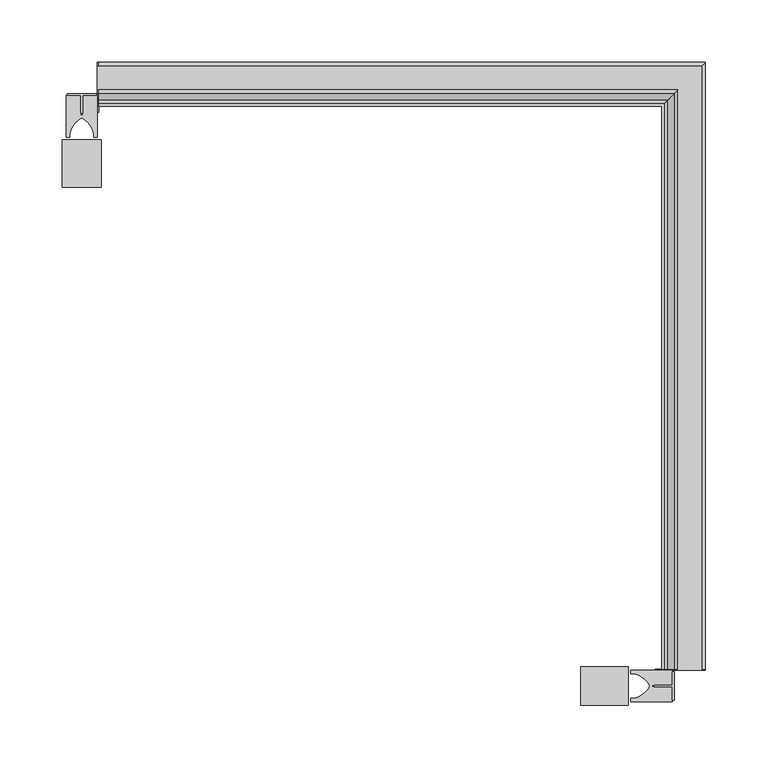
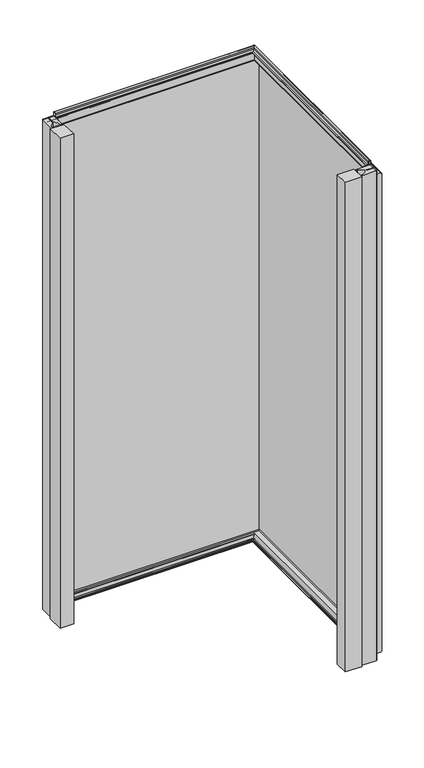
"""IFC4 building model written with IfcOpenShell, lengths in millimetres: plate geometry, Угловой модуль Fronttop : Угловой модуль Fronttop 100/1190."""

from ifc_helpers import new_model, si_unit, point, frame, frame_2d, origin, origin_with_axes, place, context, project, spatial, polyline, circle_curve, ellipse_curve, trimmed, segment, composite_curve, outline, extrude, source, transform, mapped, element, save
from ifc_brep_helpers import plane_surface, cylinder_surface, revolved_surface, advanced_brep


def plate_c792359b(model_context):
    return source(origin(), model_context, "Body", "SolidModel", [
        extrude(outline(polyline([(225.0, -388.4948846), (225.0, -411.5051154), (223.5, -411.5051154), (223.5, -400.6502496), (209.0759655, -400.6502496), (209.0759655, -399.35), (223.5, -399.35), (223.5, -388.4948846), (225.0, -388.4948846)])), origin_with_axes(), (0.0, 0.0, 1.0), 1190.0),
        extrude(outline(composite_curve([segment(polyline([(223.5, -387.4998455), (223.5, -399.25), (207.5, -399.25), (207.5, -400.75), (223.5, -400.75), (223.5, -412.5001545), (190.0, -412.5001545), (190.0, -409.75), (192.5, -409.75)]), True, "CONTINUOUS"), segment(trimmed(circle_curve(frame_2d((189.3183984, -391.9661979)), 18.0661619), [point((192.5, -409.75))], [point((205.5, -400.0))], True, "CARTESIAN"), True, "CONTINUOUS"), segment(trimmed(circle_curve(frame_2d((189.3183984, -408.0338021)), 18.0661619), [point((205.5, -400.0))], [point((192.5, -390.25))], True, "CARTESIAN"), True, "CONTINUOUS"), segment(polyline([(192.5, -390.25), (190.0, -390.25), (190.0, -387.4998455), (223.5, -387.4998455)]), True, "CONTINUOUS")], self_intersect=False)), origin_with_axes(), (0.0, 0.0, 1.0), 1190.0),
        extrude(outline(polyline([(150.0, -415.5), (150.0, -384.5), (188.0, -384.5), (188.0, -415.5), (150.0, -415.5)])), origin_with_axes(), (0.0, 0.0, 1.0), 1190.0),
        extrude(outline(polyline([(-261.5051154, 75.0), (-238.4948846, 75.0), (-238.4948846, 73.5), (-249.3497504, 73.5), (-249.3497504, 59.0759655), (-250.65, 59.0759655), (-250.65, 73.5), (-261.5051154, 73.5), (-261.5051154, 75.0)])), origin_with_axes(), (0.0, 0.0, 1.0), 1190.0),
        extrude(outline(composite_curve([segment(polyline([(-262.5001545, 73.5), (-250.75, 73.5), (-250.75, 57.5), (-249.25, 57.5), (-249.25, 73.5), (-237.4998455, 73.5), (-237.4998455, 40.0), (-240.25, 40.0), (-240.25, 42.5)]), True, "CONTINUOUS"), segment(trimmed(circle_curve(frame_2d((-258.0338021, 39.3183984)), 18.0661619), [point((-240.25, 42.5))], [point((-250.0, 55.5))], True, "CARTESIAN"), True, "CONTINUOUS"), segment(trimmed(circle_curve(frame_2d((-241.9661979, 39.3183984)), 18.0661619), [point((-250.0, 55.5))], [point((-259.75, 42.5))], True, "CARTESIAN"), True, "CONTINUOUS"), segment(polyline([(-259.75, 42.5), (-259.75, 40.0), (-262.5001545, 40.0), (-262.5001545, 73.5)]), True, "CONTINUOUS")], self_intersect=False)), origin_with_axes(), (0.0, 0.0, 1.0), 1190.0),
        extrude(outline(polyline([(-234.5, 0.0), (-265.5, 0.0), (-265.5, 38.0), (-234.5, 38.0), (-234.5, 0.0)])), origin_with_axes(), (0.0, 0.0, 1.0), 1190.0),
        advanced_brep(
        [(-236.5, 74.0, 1198.0), (-236.5, 71.0, 1198.0), (-236.5, 71.0, 1194.0), (-236.5, 67.0, 1190.0), (-236.5, 65.0, 1190.0), (-236.5, 65.0, 1191.0), (-236.5, 67.0, 1191.0), (-236.5, 70.0, 1194.0), (-236.5, 70.0, 1198.0), (-236.5, 75.0, 1198.0), (-236.5, 75.0, 1190.0), (-236.5, 74.0, 1190.0), (-236.5, 65.0, 2.0), (215.0, 65.0, 2.0), (215.0, 65.0, 3.0), (-236.5, 65.0, 3.0), (215.0, -386.5, 3.0), (217.0, -386.5, 3.0), (217.0, 67.0, 3.0), (-236.5, 67.0, 3.0), (218.0, 68.0, 4.0), (-236.5, 68.0, 4.0), (218.0, 68.0, 8.0), (-236.5, 68.0, 8.0), (227.0, 77.0, 8.0), (-236.5, 77.0, 8.0), (227.0, 77.0, 0.0), (-236.5, 77.0, 0.0), (229.0, 79.0, -2.0), (-236.5, 79.0, -2.0), (229.0, -386.5, -2.0), (247.0, -386.5, -2.0), (247.0, 97.0, -2.0), (-236.5, 97.0, -2.0), (249.0, 99.0, 0.0), (-236.5, 99.0, 0.0), (249.0, 99.0, 1159.0), (-236.5, 99.0, 1159.0), (247.0, 97.0, 1161.0), (-236.5, 97.0, 1161.0), (247.0, -386.5, 1161.0), (228.0, -386.5, 1161.0), (228.0, 78.0, 1161.0), (-236.5, 78.0, 1161.0), (224.0, 74.0, 1165.0), (-236.5, 74.0, 1165.0), (224.0, 74.0, 1198.0), (221.0, 71.0, 1198.0), (221.0, 71.0, 1194.0), (217.0, 67.0, 1190.0), (217.0, -386.5, 1190.0), (215.0, -386.5, 1190.0), (215.0, 65.0, 1190.0), (215.0, 65.0, 1191.0), (215.0, -386.5, 1191.0), (217.0, -386.5, 1191.0), (217.0, 67.0, 1191.0), (220.0, 70.0, 1194.0), (220.0, 70.0, 1198.0), (225.0, 75.0, 1198.0), (225.0, 75.0, 1165.0), (-236.5, 75.0, 1165.0), (-237.5, 75.0, 1165.0), (-237.5, 75.0, 1190.0), (228.0, 78.0, 1162.0), (-236.5, 78.0, 1162.0), (228.0, -386.5, 1162.0), (228.0, -387.5, 1162.0), (247.0, -387.5, 1162.0), (247.0, -386.5, 1162.0), (247.0, 97.0, 1162.0), (-236.5, 97.0, 1162.0), (-237.5, 97.0, 1162.0), (-237.5, 78.0, 1162.0), (250.0, 100.0, 1159.0), (-236.5, 100.0, 1159.0), (250.0, 100.0, 0.0), (-236.5, 100.0, 0.0), (-237.5, 100.0, 0.0), (-237.5, 100.0, 1159.0), (247.0, 97.0, -3.0), (-236.5, 97.0, -3.0), (247.0, -386.5, -3.0), (247.0, -387.5, -3.0), (225.0, -387.5, -3.0), (225.0, -386.5, -3.0), (229.0, -386.5, -3.0), (229.0, 79.0, -3.0), (-236.5, 79.0, -3.0), (-236.5, 75.0, -3.0), (-237.5, 75.0, -3.0), (-237.5, 97.0, -3.0), (226.0, 76.0, 0.0), (-236.5, 76.0, 0.0), (226.0, 76.0, 8.0), (-236.5, 76.0, 8.0), (219.0, 69.0, 8.0), (-236.5, 69.0, 8.0), (219.0, 69.0, 4.0), (-236.5, 69.0, 4.0), (217.0, 67.0, 2.0), (-236.5, 67.0, 2.0), (217.0, -386.5, 2.0), (215.0, -386.5, 2.0), (221.0, -386.5, 1194.0), (221.0, -386.5, 1198.0), (224.0, -386.5, 1198.0), (224.0, -386.5, 1190.0), (225.0, -386.5, 1190.0), (225.0, -386.5, 1198.0), (220.0, -386.5, 1198.0), (220.0, -386.5, 1194.0), (218.0, -386.5, 4.0), (218.0, -386.5, 8.0), (227.0, -386.5, 8.0), (227.0, -386.5, 0.0), (249.0, -386.5, 0.0), (249.0, -386.5, 1159.0), (224.0, -386.5, 1165.0), (225.0, -387.5, 1190.0), (225.0, -387.5, 1165.0), (225.0, -386.5, 1165.0), (250.0, -386.5, 1159.0), (250.0, -387.5, 1159.0), (250.0, -387.5, 0.0), (250.0, -386.5, 0.0), (226.0, -386.5, 0.0), (226.0, -386.5, 8.0), (219.0, -386.5, 8.0), (219.0, -386.5, 4.0), (-236.5, 60.0, 1190.0), (-236.5, 60.0, 0.0), (-236.5, 75.0, 0.0), (-237.5, 75.0, 0.0), (-237.5, 60.0, 0.0), (-237.5, 60.0, 1190.0), (210.0, -386.5, 0.0), (210.0, -386.5, 1190.0), (225.0, -386.5, 0.0), (210.0, -387.5, 0.0), (225.0, -387.5, 0.0), (210.0, -387.5, 1190.0)],
        [
            (0, 1, circle_curve(frame((-236.5, 72.5, 1198.0), z_axis=(1.0, 0.0, 0.0), x_axis=(0.0, -1.0, 0.0)), 1.5)),
            (1, 2),
            (2, 3, circle_curve(frame((-236.5, 67.0, 1194.0), z_axis=(-1.0, 0.0, 0.0), x_axis=(0.0, -1.0, 0.0)), 4.0)),
            (3, 4),
            (4, 5),
            (5, 6),
            (6, 7, circle_curve(frame((-236.5, 67.0, 1194.0), z_axis=(1.0, 0.0, 0.0), x_axis=(0.0, -1.0, 0.0)), 3.0)),
            (7, 8),
            (8, 9, circle_curve(frame((-236.5, 72.5, 1198.0), z_axis=(-1.0, 0.0, 0.0), x_axis=(0.0, -1.0, 0.0)), 2.5)),
            (9, 10),
            (10, 11),
            (11, 0),
            (12, 13),
            (13, 14),
            (14, 15),
            (15, 12),
            (14, 16),
            (16, 17),
            (17, 18),
            (18, 19),
            (19, 15),
            (18, 20, ellipse_curve(frame((217.0, 67.0, 4.0), z_axis=(0.7071067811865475, -0.7071067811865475, 0.0), x_axis=(0.7071067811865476, 0.7071067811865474, 0.0)), 1.4142136, 1.0)),
            (20, 21),
            (21, 19, circle_curve(frame((-236.5, 67.0, 4.0), z_axis=(-1.0, 0.0, 0.0), x_axis=(0.0, -1.0, 0.0)), 1.0)),
            (20, 22),
            (22, 23),
            (23, 21),
            (22, 24, ellipse_curve(frame((222.5, 72.5, 8.0), z_axis=(-0.7071067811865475, 0.7071067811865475, 0.0), x_axis=(-0.7071067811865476, -0.7071067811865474, 0.0)), 6.363961, 4.5)),
            (24, 25),
            (25, 23, circle_curve(frame((-236.5, 72.5, 8.0), z_axis=(1.0, 0.0, 0.0), x_axis=(0.0, -1.0, 0.0)), 4.5)),
            (24, 26),
            (26, 27),
            (27, 25),
            (26, 28, ellipse_curve(frame((229.0, 79.0, 0.0), z_axis=(0.7071067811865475, -0.7071067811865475, 0.0), x_axis=(0.7071067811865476, 0.7071067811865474, 0.0)), 2.8284271, 2.0)),
            (28, 29),
            (29, 27, circle_curve(frame((-236.5, 79.0, 0.0), z_axis=(-1.0, 0.0, 0.0), x_axis=(0.0, -1.0, 0.0)), 2.0)),
            (28, 30),
            (30, 31),
            (31, 32),
            (32, 33),
            (33, 29),
            (32, 34, ellipse_curve(frame((247.0, 97.0, 0.0), z_axis=(0.7071067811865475, -0.7071067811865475, 0.0), x_axis=(0.7071067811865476, 0.7071067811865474, 0.0)), 2.8284271, 2.0)),
            (34, 35),
            (35, 33, circle_curve(frame((-236.5, 97.0, 0.0), z_axis=(-1.0, 0.0, 0.0), x_axis=(0.0, -1.0, 0.0)), 2.0)),
            (34, 36),
            (36, 37),
            (37, 35),
            (36, 38, ellipse_curve(frame((247.0, 97.0, 1159.0), z_axis=(0.7071067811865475, -0.7071067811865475, 0.0), x_axis=(0.7071067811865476, 0.7071067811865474, 0.0)), 2.8284271, 2.0)),
            (38, 39),
            (39, 37, circle_curve(frame((-236.5, 97.0, 1159.0), z_axis=(-1.0, 0.0, 0.0), x_axis=(0.0, -1.0, 0.0)), 2.0)),
            (38, 40),
            (40, 41),
            (41, 42),
            (42, 43),
            (43, 39),
            (42, 44, ellipse_curve(frame((228.0, 78.0, 1165.0), z_axis=(-0.7071067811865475, 0.7071067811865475, 0.0), x_axis=(-0.7071067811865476, -0.7071067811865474, 0.0)), 5.6568542, 4.0)),
            (44, 45),
            (45, 43, circle_curve(frame((-236.5, 78.0, 1165.0), z_axis=(1.0, 0.0, 0.0), x_axis=(0.0, -1.0, 0.0)), 4.0)),
            (44, 46),
            (46, 0),
            (11, 45),
            (46, 47, ellipse_curve(frame((222.5, 72.5, 1198.0), z_axis=(0.7071067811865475, -0.7071067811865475, 0.0), x_axis=(0.7071067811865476, 0.7071067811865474, 0.0)), 2.1213203, 1.5)),
            (47, 1),
            (47, 48),
            (48, 2),
            (48, 49, ellipse_curve(frame((217.0, 67.0, 1194.0), z_axis=(-0.7071067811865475, 0.7071067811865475, 0.0), x_axis=(-0.7071067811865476, -0.7071067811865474, 0.0)), 5.6568542, 4.0)),
            (49, 3),
            (49, 50),
            (50, 51),
            (51, 52),
            (52, 4),
            (4, 3),
            (52, 53),
            (53, 5),
            (53, 54),
            (54, 55),
            (55, 56),
            (56, 6),
            (56, 57, ellipse_curve(frame((217.0, 67.0, 1194.0), z_axis=(0.7071067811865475, -0.7071067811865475, 0.0), x_axis=(0.7071067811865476, 0.7071067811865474, 0.0)), 4.2426407, 3.0)),
            (57, 7),
            (57, 58),
            (58, 8),
            (58, 59, ellipse_curve(frame((222.5, 72.5, 1198.0), z_axis=(-0.7071067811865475, 0.7071067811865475, 0.0), x_axis=(-0.7071067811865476, -0.7071067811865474, 0.0)), 3.5355339, 2.5)),
            (59, 9),
            (59, 60),
            (60, 61),
            (61, 62),
            (62, 63),
            (63, 10),
            (60, 64, ellipse_curve(frame((228.0, 78.0, 1165.0), z_axis=(0.7071067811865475, -0.7071067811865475, 0.0), x_axis=(0.7071067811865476, 0.7071067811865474, 0.0)), 4.2426407, 3.0)),
            (64, 65),
            (65, 61, circle_curve(frame((-236.5, 78.0, 1165.0), z_axis=(-1.0, 0.0, 0.0), x_axis=(0.0, -1.0, 0.0)), 3.0)),
            (64, 66),
            (66, 67),
            (67, 68),
            (68, 69),
            (69, 70),
            (70, 71),
            (71, 72),
            (72, 73),
            (73, 65),
            (70, 74, ellipse_curve(frame((247.0, 97.0, 1159.0), z_axis=(-0.7071067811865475, 0.7071067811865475, 0.0), x_axis=(-0.7071067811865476, -0.7071067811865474, 0.0)), 4.2426407, 3.0)),
            (74, 75),
            (75, 71, circle_curve(frame((-236.5, 97.0, 1159.0), z_axis=(1.0, 0.0, 0.0), x_axis=(0.0, -1.0, 0.0)), 3.0)),
            (74, 76),
            (76, 77),
            (77, 78),
            (78, 79),
            (79, 75),
            (76, 80, ellipse_curve(frame((247.0, 97.0, 0.0), z_axis=(-0.7071067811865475, 0.7071067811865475, 0.0), x_axis=(-0.7071067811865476, -0.7071067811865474, 0.0)), 4.2426407, 3.0)),
            (80, 81),
            (81, 77, circle_curve(frame((-236.5, 97.0, 0.0), z_axis=(1.0, 0.0, 0.0), x_axis=(0.0, -1.0, 0.0)), 3.0)),
            (80, 82),
            (82, 83),
            (83, 84),
            (84, 85),
            (85, 86),
            (86, 87),
            (87, 88),
            (88, 89),
            (89, 90),
            (90, 91),
            (91, 81),
            (87, 92, ellipse_curve(frame((229.0, 79.0, 0.0), z_axis=(-0.7071067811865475, 0.7071067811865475, 0.0), x_axis=(-0.7071067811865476, -0.7071067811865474, 0.0)), 4.2426407, 3.0)),
            (92, 93),
            (93, 88, circle_curve(frame((-236.5, 79.0, 0.0), z_axis=(1.0, 0.0, 0.0), x_axis=(0.0, -1.0, 0.0)), 3.0)),
            (92, 94),
            (94, 95),
            (95, 93),
            (94, 96, ellipse_curve(frame((222.5, 72.5, 8.0), z_axis=(0.7071067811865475, -0.7071067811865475, 0.0), x_axis=(0.7071067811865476, 0.7071067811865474, 0.0)), 4.9497475, 3.5)),
            (96, 97),
            (97, 95, circle_curve(frame((-236.5, 72.5, 8.0), z_axis=(-1.0, 0.0, 0.0), x_axis=(0.0, -1.0, 0.0)), 3.5)),
            (96, 98),
            (98, 99),
            (99, 97),
            (98, 100, ellipse_curve(frame((217.0, 67.0, 4.0), z_axis=(-0.7071067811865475, 0.7071067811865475, 0.0), x_axis=(-0.7071067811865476, -0.7071067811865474, 0.0)), 2.8284271, 2.0)),
            (100, 101),
            (101, 99, circle_curve(frame((-236.5, 67.0, 4.0), z_axis=(1.0, 0.0, 0.0), x_axis=(0.0, -1.0, 0.0)), 2.0)),
            (12, 101),
            (100, 102),
            (102, 103),
            (103, 13),
            (54, 51),
            (51, 50),
            (50, 104, circle_curve(frame((217.0, -386.5, 1194.0), z_axis=(0.0, -1.0, 0.0), x_axis=(-1.0, 0.0, 0.0)), 4.0)),
            (104, 105),
            (105, 106, circle_curve(frame((222.5, -386.5, 1198.0), z_axis=(0.0, 1.0, 0.0), x_axis=(-1.0, 0.0, 0.0)), 1.5)),
            (106, 107),
            (107, 108),
            (108, 109),
            (109, 110, circle_curve(frame((222.5, -386.5, 1198.0), z_axis=(0.0, -1.0, 0.0), x_axis=(-1.0, 0.0, 0.0)), 2.5)),
            (110, 111),
            (111, 55, circle_curve(frame((217.0, -386.5, 1194.0), z_axis=(0.0, 1.0, 0.0), x_axis=(-1.0, 0.0, 0.0)), 3.0)),
            (103, 16),
            (17, 112, circle_curve(frame((217.0, -386.5, 4.0), z_axis=(0.0, -1.0, 0.0), x_axis=(-1.0, 0.0, 0.0)), 1.0)),
            (112, 20),
            (112, 113),
            (113, 22),
            (113, 114, circle_curve(frame((222.5, -386.5, 8.0), z_axis=(0.0, 1.0, 0.0), x_axis=(-1.0, 0.0, 0.0)), 4.5)),
            (114, 24),
            (114, 115),
            (115, 26),
            (115, 30, circle_curve(frame((229.0, -386.5, 0.0), z_axis=(0.0, -1.0, 0.0), x_axis=(-1.0, 0.0, 0.0)), 2.0)),
            (31, 116, circle_curve(frame((247.0, -386.5, 0.0), z_axis=(0.0, -1.0, 0.0), x_axis=(-1.0, 0.0, 0.0)), 2.0)),
            (116, 34),
            (116, 117),
            (117, 36),
            (117, 40, circle_curve(frame((247.0, -386.5, 1159.0), z_axis=(0.0, -1.0, 0.0), x_axis=(-1.0, 0.0, 0.0)), 2.0)),
            (41, 118, circle_curve(frame((228.0, -386.5, 1165.0), z_axis=(0.0, 1.0, 0.0), x_axis=(-1.0, 0.0, 0.0)), 4.0)),
            (118, 44),
            (118, 107),
            (106, 46),
            (105, 47),
            (104, 48),
            (111, 57),
            (110, 58),
            (109, 59),
            (108, 119),
            (119, 120),
            (120, 121),
            (121, 60),
            (121, 66, circle_curve(frame((228.0, -386.5, 1165.0), z_axis=(0.0, -1.0, 0.0), x_axis=(-1.0, 0.0, 0.0)), 3.0)),
            (69, 122, circle_curve(frame((247.0, -386.5, 1159.0), z_axis=(0.0, 1.0, 0.0), x_axis=(-1.0, 0.0, 0.0)), 3.0)),
            (122, 74),
            (122, 123),
            (123, 124),
            (124, 125),
            (125, 76),
            (125, 82, circle_curve(frame((247.0, -386.5, 0.0), z_axis=(0.0, 1.0, 0.0), x_axis=(-1.0, 0.0, 0.0)), 3.0)),
            (86, 126, circle_curve(frame((229.0, -386.5, 0.0), z_axis=(0.0, 1.0, 0.0), x_axis=(-1.0, 0.0, 0.0)), 3.0)),
            (126, 92),
            (126, 127),
            (127, 94),
            (127, 128, circle_curve(frame((222.5, -386.5, 8.0), z_axis=(0.0, -1.0, 0.0), x_axis=(-1.0, 0.0, 0.0)), 3.5)),
            (128, 96),
            (128, 129),
            (129, 98),
            (129, 102, circle_curve(frame((217.0, -386.5, 4.0), z_axis=(0.0, 1.0, 0.0), x_axis=(-1.0, 0.0, 0.0)), 2.0)),
            (130, 131),
            (131, 132),
            (132, 89),
            (11, 3),
            (4, 130),
            (62, 73, circle_curve(frame((-237.5, 78.0, 1165.0), z_axis=(1.0, 0.0, 0.0), x_axis=(0.0, 1.0, 0.0)), 3.0)),
            (72, 79, circle_curve(frame((-237.5, 97.0, 1159.0), z_axis=(-1.0, 0.0, 0.0), x_axis=(0.0, 1.0, 0.0)), 3.0)),
            (78, 91, circle_curve(frame((-237.5, 97.0, 0.0), z_axis=(-1.0, 0.0, 0.0), x_axis=(0.0, 1.0, 0.0)), 3.0)),
            (90, 133),
            (133, 134),
            (134, 135),
            (135, 63),
            (135, 130),
            (134, 131),
            (133, 132),
            (136, 137),
            (137, 51),
            (50, 107),
            (85, 138),
            (138, 136),
            (139, 140),
            (140, 84),
            (83, 124, circle_curve(frame((247.0, -387.5, 0.0), z_axis=(0.0, -1.0, 0.0), x_axis=(-1.0, 0.0, 0.0)), 3.0)),
            (123, 68, circle_curve(frame((247.0, -387.5, 1159.0), z_axis=(0.0, -1.0, 0.0), x_axis=(-1.0, 0.0, 0.0)), 3.0)),
            (67, 120, circle_curve(frame((228.0, -387.5, 1165.0), z_axis=(0.0, 1.0, 0.0), x_axis=(-1.0, 0.0, 0.0)), 3.0)),
            (119, 141),
            (141, 139),
            (138, 140),
            (139, 136),
            (137, 141),
        ],
        [
            plane_surface(frame((-236.5, 0.0, 0.0), z_axis=(-1.0, 0.0, 0.0), x_axis=(0.0, 0.0, 1.0))),
            plane_surface(frame((-236.5, 65.0, 2.0), z_axis=(0.0, -1.0, 0.0), x_axis=(1.0, 0.0, 0.0))),
            plane_surface(frame((-236.5, 65.0, 3.0), z_axis=(0.0, 0.0, 1.0), x_axis=(1.0, 0.0, 0.0))),
            revolved_surface(polyline([(218.00000002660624, 66.0, 4.0), (-236.5, 66.0, 4.0)]), (-236.5, 67.0, 4.0), (1.0, 0.0, 0.0)),
            plane_surface(frame((-236.5, 68.0, 4.0), z_axis=(0.0, -1.0, 0.0), x_axis=(1.0, 0.0, 0.0))),
            cylinder_surface(frame((-236.5, 72.5, 8.0), z_axis=(-1.0, 0.0, 0.0), x_axis=(0.0, -1.0, 0.0)), 4.5),
            plane_surface(frame((-236.5, 77.0, 8.0), z_axis=(0.0, 1.0, 0.0), x_axis=(1.0, 0.0, 0.0))),
            revolved_surface(polyline([(230.99999998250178, 77.0, 0.0), (-236.5, 77.0, 0.0)]), (-236.5, 79.0, 0.0), (1.0, 0.0, 0.0)),
            plane_surface(frame((-236.5, 79.0, -2.0), z_axis=(0.0, 0.0, 1.0), x_axis=(1.0, 0.0, 0.0))),
            revolved_surface(polyline([(249.0, 95.0, 0.0), (-236.5, 95.0, 0.0)]), (-236.5, 97.0, 0.0), (1.0, 0.0, 0.0)),
            plane_surface(frame((-236.5, 99.0, 0.0), z_axis=(0.0, -1.0, 0.0), x_axis=(1.0, 0.0, 0.0))),
            revolved_surface(polyline([(249.0, 95.0, 1159.0), (-236.5, 95.0, 1159.0)]), (-236.5, 97.0, 1159.0), (1.0, 0.0, 0.0)),
            plane_surface(frame((-236.5, 97.0, 1161.0), z_axis=(0.0, 0.0, -1.0), x_axis=(1.0, 0.0, 0.0))),
            cylinder_surface(frame((-236.5, 78.0, 1165.0), z_axis=(-1.0, 0.0, 0.0), x_axis=(0.0, -1.0, 0.0)), 4.0),
            plane_surface(frame((-236.5, 74.0, 1165.0), z_axis=(0.0, -1.0, 0.0), x_axis=(1.0, 0.0, 0.0))),
            revolved_surface(polyline([(224.0, 71.0, 1198.0), (-236.5, 71.0, 1198.0)]), (-236.5, 72.5, 1198.0), (1.0, 0.0, 0.0)),
            plane_surface(frame((-236.5, 71.0, 1198.0), z_axis=(0.0, 1.0, 0.0), x_axis=(1.0, 0.0, 0.0))),
            cylinder_surface(frame((-236.5, 67.0, 1194.0), z_axis=(-1.0, 0.0, 0.0), x_axis=(0.0, -1.0, 0.0)), 4.0),
            plane_surface(frame((-236.5, 67.0, 1190.0), z_axis=(0.0, 0.0, -1.0), x_axis=(1.0, 0.0, 0.0))),
            plane_surface(frame((-236.5, 65.0, 1190.0), z_axis=(0.0, -1.0, 0.0), x_axis=(1.0, 0.0, 0.0))),
            plane_surface(frame((-236.5, 65.0, 1191.0), z_axis=(0.0, 0.0, 1.0), x_axis=(1.0, 0.0, 0.0))),
            revolved_surface(polyline([(220.00000000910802, 64.0, 1194.0), (-236.5, 64.0, 1194.0)]), (-236.5, 67.0, 1194.0), (1.0, 0.0, 0.0)),
            plane_surface(frame((-236.5, 70.0, 1194.0), z_axis=(0.0, -1.0, 0.0), x_axis=(1.0, 0.0, 0.0))),
            cylinder_surface(frame((-236.5, 72.5, 1198.0), z_axis=(-1.0, 0.0, 0.0), x_axis=(0.0, -1.0, 0.0)), 2.5),
            plane_surface(frame((-236.5, 75.0, 1198.0), z_axis=(0.0, 1.0, 0.0), x_axis=(1.0, 0.0, 0.0))),
            revolved_surface(polyline([(231.00000000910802, 75.0, 1165.0), (-236.5, 75.0, 1165.0)]), (-236.5, 78.0, 1165.0), (1.0, 0.0, 0.0)),
            plane_surface(frame((-236.5, 78.0, 1162.0), z_axis=(0.0, 0.0, 1.0), x_axis=(1.0, 0.0, 0.0))),
            cylinder_surface(frame((-236.5, 97.0, 1159.0), z_axis=(-1.0, 0.0, 0.0), x_axis=(0.0, -1.0, 0.0)), 3.0),
            plane_surface(frame((-236.5, 100.0, 1159.0), z_axis=(0.0, 1.0, 0.0), x_axis=(1.0, 0.0, 0.0))),
            cylinder_surface(frame((-236.5, 97.0, 0.0), z_axis=(-1.0, 0.0, 0.0), x_axis=(0.0, -1.0, 0.0)), 3.0),
            plane_surface(frame((-236.5, 97.0, -3.0), z_axis=(0.0, 0.0, -1.0), x_axis=(1.0, 0.0, 0.0))),
            cylinder_surface(frame((-236.5, 79.0, 0.0), z_axis=(-1.0, 0.0, 0.0), x_axis=(0.0, -1.0, 0.0)), 3.0),
            plane_surface(frame((-236.5, 76.0, 0.0), z_axis=(0.0, -1.0, 0.0), x_axis=(1.0, 0.0, 0.0))),
            revolved_surface(polyline([(226.00000002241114, 69.0, 8.0), (-236.5, 69.0, 8.0)]), (-236.5, 72.5, 8.0), (1.0, 0.0, 0.0)),
            plane_surface(frame((-236.5, 69.0, 8.0), z_axis=(0.0, 1.0, 0.0), x_axis=(1.0, 0.0, 0.0))),
            cylinder_surface(frame((-236.5, 67.0, 4.0), z_axis=(-1.0, 0.0, 0.0), x_axis=(0.0, -1.0, 0.0)), 2.0),
            plane_surface(frame((-236.5, 67.0, 2.0), z_axis=(0.0, 0.0, -1.0), x_axis=(1.0, 0.0, 0.0))),
            plane_surface(frame((150.0, -386.5, 0.0), z_axis=(0.0, -1.0, 0.0), x_axis=(0.0, 0.0, 1.0))),
            plane_surface(frame((215.0, 65.0, 2.0), z_axis=(-1.0, 0.0, 0.0), x_axis=(0.0, -1.0, 0.0))),
            revolved_surface(polyline([(216.0, -386.5, 4.0), (216.0, 68.00000002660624, 4.0)]), (217.0, 0.0, 4.0), (0.0, -1.0, 0.0)),
            plane_surface(frame((218.0, 68.0, 4.0), z_axis=(-1.0, 0.0, 0.0), x_axis=(0.0, -1.0, 0.0))),
            cylinder_surface(frame((222.5, 0.0, 8.0), z_axis=(0.0, 1.0, 0.0), x_axis=(-1.0, 0.0, 0.0)), 4.5),
            plane_surface(frame((227.0, 77.0, 8.0), z_axis=(1.0, 0.0, 0.0), x_axis=(0.0, -1.0, 0.0))),
            revolved_surface(polyline([(227.0, -386.5, 0.0), (227.0, 80.9999999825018, 0.0)]), (229.0, 0.0, 0.0), (0.0, -1.0, 0.0)),
            revolved_surface(polyline([(245.0, -386.5, 0.0), (245.0, 99.0, 0.0)]), (247.0, 0.0, 0.0), (0.0, -1.0, 0.0)),
            plane_surface(frame((249.0, 99.0, 0.0), z_axis=(-1.0, 0.0, 0.0), x_axis=(0.0, -1.0, 0.0))),
            revolved_surface(polyline([(245.0, -386.5, 1159.0), (245.0, 99.0, 1159.0)]), (247.0, 0.0, 1159.0), (0.0, -1.0, 0.0)),
            cylinder_surface(frame((228.0, 0.0, 1165.0), z_axis=(0.0, 1.0, 0.0), x_axis=(-1.0, 0.0, 0.0)), 4.0),
            plane_surface(frame((224.0, 74.0, 1165.0), z_axis=(-1.0, 0.0, 0.0), x_axis=(0.0, -1.0, 0.0))),
            revolved_surface(polyline([(221.0, -386.5, 1198.0), (221.0, 74.0, 1198.0)]), (222.5, 0.0, 1198.0), (0.0, -1.0, 0.0)),
            plane_surface(frame((221.0, 71.0, 1198.0), z_axis=(1.0, 0.0, 0.0), x_axis=(0.0, -1.0, 0.0))),
            cylinder_surface(frame((217.0, 0.0, 1194.0), z_axis=(0.0, 1.0, 0.0), x_axis=(-1.0, 0.0, 0.0)), 4.0),
            plane_surface(frame((215.0, 65.0, 1190.0), z_axis=(-1.0, 0.0, 0.0), x_axis=(0.0, -1.0, 0.0))),
            revolved_surface(polyline([(214.0, -386.5, 1194.0), (214.0, 70.00000000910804, 1194.0)]), (217.0, 0.0, 1194.0), (0.0, -1.0, 0.0)),
            plane_surface(frame((220.0, 70.0, 1194.0), z_axis=(-1.0, 0.0, 0.0), x_axis=(0.0, -1.0, 0.0))),
            cylinder_surface(frame((222.5, 0.0, 1198.0), z_axis=(0.0, 1.0, 0.0), x_axis=(-1.0, 0.0, 0.0)), 2.5),
            plane_surface(frame((225.0, 75.0, 1198.0), z_axis=(1.0, 0.0, 0.0), x_axis=(0.0, -1.0, 0.0))),
            revolved_surface(polyline([(225.0, -386.5, 1165.0), (225.0, 81.00000000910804, 1165.0)]), (228.0, 0.0, 1165.0), (0.0, -1.0, 0.0)),
            cylinder_surface(frame((247.0, 0.0, 1159.0), z_axis=(0.0, 1.0, 0.0), x_axis=(-1.0, 0.0, 0.0)), 3.0),
            plane_surface(frame((250.0, 100.0, 1159.0), z_axis=(1.0, 0.0, 0.0), x_axis=(0.0, -1.0, 0.0))),
            cylinder_surface(frame((247.0, 0.0, 0.0), z_axis=(0.0, 1.0, 0.0), x_axis=(-1.0, 0.0, 0.0)), 3.0),
            cylinder_surface(frame((229.0, 0.0, 0.0), z_axis=(0.0, 1.0, 0.0), x_axis=(-1.0, 0.0, 0.0)), 3.0),
            plane_surface(frame((226.0, 76.0, 0.0), z_axis=(-1.0, 0.0, 0.0), x_axis=(0.0, -1.0, 0.0))),
            revolved_surface(polyline([(219.0, -386.5, 8.0), (219.0, 76.00000002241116, 8.0)]), (222.5, 0.0, 8.0), (0.0, -1.0, 0.0)),
            plane_surface(frame((219.0, 69.0, 8.0), z_axis=(1.0, 0.0, 0.0), x_axis=(0.0, -1.0, 0.0))),
            cylinder_surface(frame((217.0, 0.0, 4.0), z_axis=(0.0, 1.0, 0.0), x_axis=(-1.0, 0.0, 0.0)), 2.0),
            plane_surface(frame((-236.5, 75.0, 1190.0), z_axis=(1.0, 0.0, 0.0), x_axis=(0.0, -1.0, 0.0))),
            plane_surface(frame((-237.5, 75.0, 1190.0), z_axis=(-1.0, 0.0, 0.0), x_axis=(0.0, 1.0, 0.0))),
            plane_surface(frame((-236.5, 75.0, 1190.0), z_axis=(0.0, 0.0, 1.0), x_axis=(-1.0, 0.0, 0.0))),
            plane_surface(frame((-236.5, 60.0, 1190.0), z_axis=(0.0, -1.0, 0.0), x_axis=(-1.0, 0.0, 0.0))),
            plane_surface(frame((-236.5, 60.0, 0.0), z_axis=(0.0, 0.0, -1.0), x_axis=(-1.0, 0.0, 0.0))),
            plane_surface(frame((-236.5, 75.0, 0.0), z_axis=(0.0, -1.0, 0.0), x_axis=(-1.0, 0.0, 0.0))),
            cylinder_surface(frame((-237.5, 97.0, 0.0), z_axis=(1.0, 0.0, 0.0), x_axis=(0.0, 1.0, 0.0)), 3.0),
            cylinder_surface(frame((-237.5, 97.0, 1159.0), z_axis=(1.0, 0.0, 0.0), x_axis=(0.0, 1.0, 0.0)), 3.0),
            revolved_surface(polyline([(-237.5, 81.0, 1165.0), (-236.5, 81.0, 1165.0)]), (-237.5, 78.0, 1165.0), (-1.0, 0.0, 0.0)),
            plane_surface(frame((210.0, -386.5, 1190.0), z_axis=(0.0, 1.0, 0.0), x_axis=(0.0, 0.0, 1.0))),
            plane_surface(frame((210.0, -387.5, 1190.0), z_axis=(0.0, -1.0, 0.0), x_axis=(0.0, 0.0, -1.0))),
            plane_surface(frame((225.0, -386.5, 0.0), z_axis=(0.0, 0.0, -1.0), x_axis=(0.0, -1.0, 0.0))),
            plane_surface(frame((225.0, -386.5, -3.0), z_axis=(-1.0, 0.0, 0.0), x_axis=(0.0, -1.0, 0.0))),
            cylinder_surface(frame((247.0, -387.5, 0.0), z_axis=(0.0, 1.0, 0.0), x_axis=(-1.0, 0.0, 0.0)), 3.0),
            cylinder_surface(frame((247.0, -387.5, 1159.0), z_axis=(0.0, 1.0, 0.0), x_axis=(-1.0, 0.0, 0.0)), 3.0),
            revolved_surface(polyline([(225.0, -387.5, 1165.0), (225.0, -386.5, 1165.0)]), (228.0, -387.5, 1165.0), (0.0, -1.0, 0.0)),
            plane_surface(frame((210.0, -386.5, 1190.0), z_axis=(0.0, 0.0, 1.0), x_axis=(0.0, -1.0, 0.0))),
            plane_surface(frame((210.0, -386.5, 0.0), z_axis=(-1.0, 0.0, 0.0), x_axis=(0.0, -1.0, 0.0))),
        ],
        [
            (0, [[1, 2, 3, 4, 5, 6, 7, 8, 9, 10, 11, 12]]),
            (1, [[13, 14, 15, 16]]),
            (2, [[-15, 17, 18, 19, 20, 21]]),
            (3, [[-20, 22, 23, 24]]),
            (4, [[-23, 25, 26, 27]]),
            (5, [[-26, 28, 29, 30]]),
            (6, [[-29, 31, 32, 33]]),
            (7, [[-32, 34, 35, 36]]),
            (8, [[-35, 37, 38, 39, 40, 41]]),
            (9, [[-40, 42, 43, 44]]),
            (10, [[-43, 45, 46, 47]]),
            (11, [[-46, 48, 49, 50]]),
            (12, [[-49, 51, 52, 53, 54, 55]]),
            (13, [[-54, 56, 57, 58]]),
            (14, [[-57, 59, 60, -12, 61]]),
            (15, [[-1, -60, 62, 63]]),
            (16, [[-2, -63, 64, 65]]),
            (17, [[-3, -65, 66, 67]]),
            (18, [[-67, 68, 69, 70, 71, 72]]),
            (19, [[-5, -71, 73, 74]]),
            (20, [[-6, -74, 75, 76, 77, 78]]),
            (21, [[-7, -78, 79, 80]]),
            (22, [[-8, -80, 81, 82]]),
            (23, [[-9, -82, 83, 84]]),
            (24, [[-84, 85, 86, 87, 88, 89, -10]]),
            (25, [[-86, 90, 91, 92]]),
            (26, [[-91, 93, 94, 95, 96, 97, 98, 99, 100, 101]]),
            (27, [[-98, 102, 103, 104]]),
            (28, [[-103, 105, 106, 107, 108, 109]]),
            (29, [[-106, 110, 111, 112]]),
            (30, [[-111, 113, 114, 115, 116, 117, 118, 119, 120, 121, 122, 123]]),
            (31, [[-119, 124, 125, 126]]),
            (32, [[-125, 127, 128, 129]]),
            (33, [[-128, 130, 131, 132]]),
            (34, [[-131, 133, 134, 135]]),
            (35, [[-134, 136, 137, 138]]),
            (36, [[-13, 139, -137, 140, 141, 142]]),
            (37, [[-76, 143, 144, 145, 146, 147, 148, 149, 150, 151, 152, 153]]),
            (38, [[-14, -142, 154, -17]]),
            (39, [[-19, 155, 156, -22]]),
            (40, [[-25, -156, 157, 158]]),
            (41, [[-28, -158, 159, 160]]),
            (42, [[-31, -160, 161, 162]]),
            (43, [[-34, -162, 163, -37]]),
            (44, [[-39, 164, 165, -42]]),
            (45, [[-45, -165, 166, 167]]),
            (46, [[-48, -167, 168, -51]]),
            (47, [[-53, 169, 170, -56]]),
            (48, [[-59, -170, 171, -148, 172]]),
            (49, [[-62, -172, -147, 173]]),
            (50, [[-64, -173, -146, 174]]),
            (51, [[-66, -174, -145, -68]]),
            (52, [[-70, -143, -75, -73]]),
            (53, [[-77, -153, 175, -79]]),
            (54, [[-81, -175, -152, 176]]),
            (55, [[-83, -176, -151, 177]]),
            (56, [[-85, -177, -150, 178, 179, 180, 181]]),
            (57, [[-90, -181, 182, -93]]),
            (58, [[-97, 183, 184, -102]]),
            (59, [[-105, -184, 185, 186, 187, 188]]),
            (60, [[-110, -188, 189, -113]]),
            (61, [[-118, 190, 191, -124]]),
            (62, [[-127, -191, 192, 193]]),
            (63, [[-130, -193, 194, 195]]),
            (64, [[-133, -195, 196, 197]]),
            (65, [[-136, -197, 198, -140]]),
            (66, [[199, 200, 201, -120, -126, -129, -132, -135, -138, -139, -16, -21, -24, -27, -30, -33, -36, -41, -44, -47, -50, -55, -58, -61, 202, -72, 203]]),
            (67, [[-88, 204, -100, 205, -108, 206, -122, 207, 208, 209, 210]]),
            (68, [[-210, 211, -203, -4, -202, -11, -89]]),
            (69, [[-199, -211, -209, 212]]),
            (70, [[-200, -212, -208, 213]]),
            (71, [[-201, -213, -207, -121]]),
            (72, [[-206, -107, -112, -123]]),
            (73, [[-205, -99, -104, -109]]),
            (74, [[-204, -87, -92, -101]]),
            (75, [[214, 215, -69, 216, -171, -169, -52, -168, -166, -164, -38, -163, -161, -159, -157, -155, -18, -154, -141, -198, -196, -194, -192, -190, -117, 217, 218]]),
            (76, [[219, 220, -115, 221, -186, 222, -95, 223, -179, 224, 225]]),
            (77, [[-218, 226, -219, 227]]),
            (78, [[-217, -116, -220, -226]]),
            (79, [[-221, -114, -189, -187]]),
            (80, [[-222, -185, -183, -96]]),
            (81, [[-223, -94, -182, -180]]),
            (82, [[-224, -178, -149, -216, -144, -215, 228]]),
            (83, [[-214, -227, -225, -228]]),
        ],
    ),
    ])


if __name__ == "__main__":
    model = new_model("IFC4")
    model_context = context("Model", 3, world=origin())
    ifc_project = project(units=[si_unit("LENGTHUNIT", "METRE", prefix="MILLI")], contexts=[model_context])
    site = spatial("IfcSite", under=ifc_project)
    building = spatial("IfcBuilding", under=site)
    placement = place(None, origin())
    plate_shape = plate_c792359b(model_context)
    element("IfcPlate", 1, ObjectType="Угловой модуль Fronttop : Угловой модуль Fronttop 100/1190", at=placement, inside=building, context=model_context, shape_type="MappedRepresentation", body=[
        mapped(plate_shape, transform((0.0, 0.0, 0.0), x_axis=(1.0, 0.0, 0.0), y_axis=(0.0, 1.0, 0.0), z_axis=(0.0, 0.0, 1.0))),
    ])
    save(model, "model.ifc")
